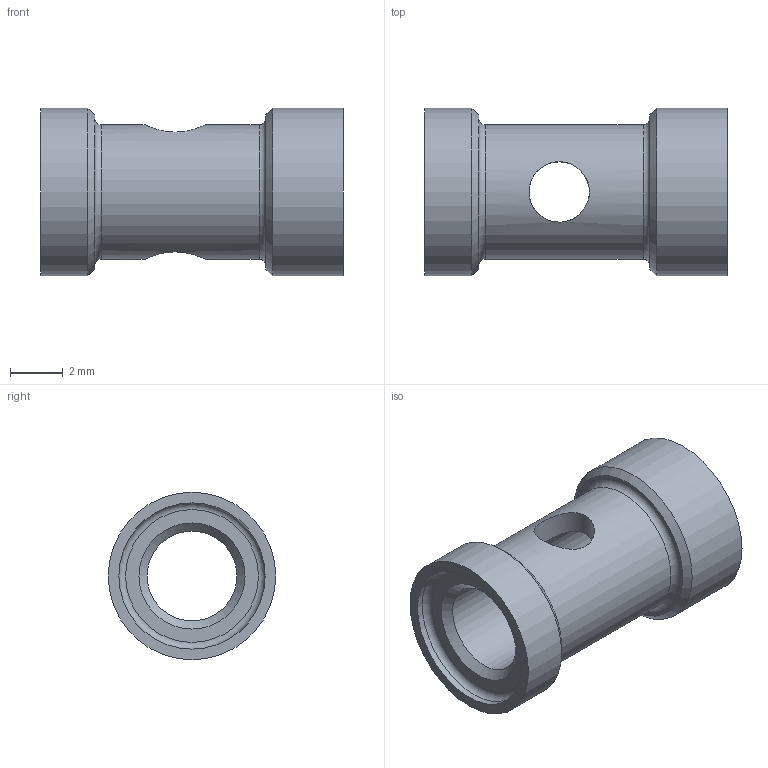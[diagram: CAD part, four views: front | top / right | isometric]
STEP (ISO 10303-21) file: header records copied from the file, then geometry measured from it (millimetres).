
FILE_DESCRIPTION (( 'STEP AP203' ), '1' );
FILE_NAME ('DIAD2501001.STEP', '2025-03-26T12:29:32', ( '' ), ( '' ), 'SwSTEP 2.0', 'SolidWorks 2023', '' );
FILE_SCHEMA (( 'CONFIG_CONTROL_DESIGN' ));
Length unit declared in the file: inch
Products named in the file (1): DIAD2501001
Bounding box: 11.43 x 6.34 x 6.34 mm (x, y, z)
Volume: 151.3 mm3; surface area: 376.2 mm2
Topology: 1 solids, 1 shells, 22 faces, 47 edges, 28 vertices
Faces by surface type: cylinder 8, cone 5, plane 5, torus 4
Full cylindrical faces by diameter (mm): 2.286 x2, 3.404 x1, 5.08 x1, 5.271 x1, 5.537 x1, 6.339 x2
Entity records: 691 total; most frequent: CARTESIAN_POINT 219, DIRECTION 86, ORIENTED_EDGE 48, EDGE_LOOP 48, AXIS2_PLACEMENT_3D 43, FACE_OUTER_BOUND 34, VERTEX_POINT 24, EDGE_CURVE 24
